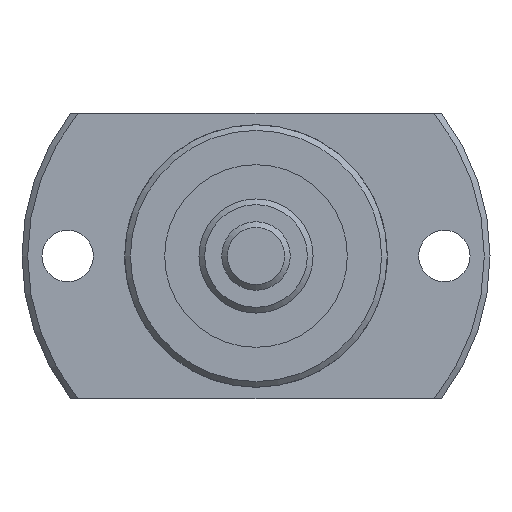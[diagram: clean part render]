
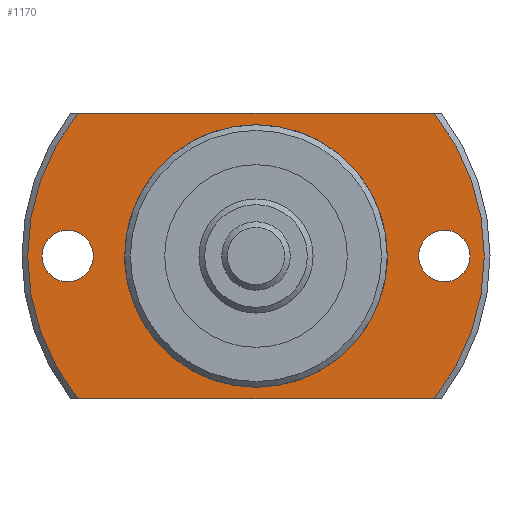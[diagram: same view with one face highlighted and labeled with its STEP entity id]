
A CAD part, left-side view. The second image highlights one B-rep face of the part: STEP entity #1170.
In plain terms, the highlighted planar face has unit normal (-1, 0, 0).
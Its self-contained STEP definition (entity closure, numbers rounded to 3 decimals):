
#121=CIRCLE('',#1303,11.3);
#124=CIRCLE('',#1307,20.);
#130=CIRCLE('',#1318,2.25);
#131=CIRCLE('',#1319,2.25);
#132=CIRCLE('',#1320,20.);
#274=ORIENTED_EDGE('',*,*,#541,.T.);
#275=ORIENTED_EDGE('',*,*,#542,.T.);
#276=ORIENTED_EDGE('',*,*,#530,.F.);
#277=ORIENTED_EDGE('',*,*,#543,.T.);
#278=ORIENTED_EDGE('',*,*,#544,.F.);
#279=ORIENTED_EDGE('',*,*,#545,.T.);
#280=ORIENTED_EDGE('',*,*,#524,.T.);
#524=EDGE_CURVE('',#670,#670,#121,.T.);
#530=EDGE_CURVE('',#675,#676,#124,.T.);
#541=EDGE_CURVE('',#685,#685,#130,.T.);
#542=EDGE_CURVE('',#686,#686,#131,.T.);
#543=EDGE_CURVE('',#675,#687,#760,.T.);
#544=EDGE_CURVE('',#688,#687,#132,.T.);
#545=EDGE_CURVE('',#688,#676,#761,.T.);
#670=VERTEX_POINT('',#1916);
#675=VERTEX_POINT('',#1930);
#676=VERTEX_POINT('',#1932);
#685=VERTEX_POINT('',#1966);
#686=VERTEX_POINT('',#1968);
#687=VERTEX_POINT('',#1970);
#688=VERTEX_POINT('',#1972);
#760=LINE('',#1969,#820);
#761=LINE('',#1973,#821);
#820=VECTOR('',#1583,1000.);
#821=VECTOR('',#1586,1000.);
#914=EDGE_LOOP('',(#274));
#915=EDGE_LOOP('',(#275));
#916=EDGE_LOOP('',(#276,#277,#278,#279));
#917=EDGE_LOOP('',(#280));
#1034=FACE_BOUND('',#914,.T.);
#1035=FACE_BOUND('',#915,.T.);
#1036=FACE_BOUND('',#916,.T.);
#1037=FACE_BOUND('',#917,.T.);
#1111=PLANE('',#1317);
#1170=ADVANCED_FACE('',(#1034,#1035,#1036,#1037),#1111,.F.);
#1303=AXIS2_PLACEMENT_3D('',#1915,#1545,#1546);
#1307=AXIS2_PLACEMENT_3D('',#1931,#1555,#1556);
#1317=AXIS2_PLACEMENT_3D('',#1964,#1577,#1578);
#1318=AXIS2_PLACEMENT_3D('',#1965,#1579,#1580);
#1319=AXIS2_PLACEMENT_3D('',#1967,#1581,#1582);
#1320=AXIS2_PLACEMENT_3D('',#1971,#1584,#1585);
#1545=DIRECTION('',(1.,0.,0.));
#1546=DIRECTION('',(0.,0.,-1.));
#1555=DIRECTION('',(1.,0.,0.));
#1556=DIRECTION('',(0.,0.,-1.));
#1577=DIRECTION('',(1.,0.,0.));
#1578=DIRECTION('',(0.,0.,-1.));
#1579=DIRECTION('',(1.,0.,0.));
#1580=DIRECTION('',(0.,0.,-1.));
#1581=DIRECTION('',(1.,0.,0.));
#1582=DIRECTION('',(0.,0.,-1.));
#1583=DIRECTION('',(0.,-1.,0.));
#1584=DIRECTION('',(1.,0.,0.));
#1585=DIRECTION('',(0.,0.,-1.));
#1586=DIRECTION('',(0.,1.,0.));
#1915=CARTESIAN_POINT('',(19.,0.,0.));
#1916=CARTESIAN_POINT('',(19.,0.,-11.3));
#1930=CARTESIAN_POINT('',(19.,15.612,-12.5));
#1931=CARTESIAN_POINT('',(19.,0.,0.));
#1932=CARTESIAN_POINT('',(19.,15.612,12.5));
#1964=CARTESIAN_POINT('',(19.,11.3,0.));
#1965=CARTESIAN_POINT('',(19.,-16.5,0.));
#1966=CARTESIAN_POINT('',(19.,-16.5,-2.25));
#1967=CARTESIAN_POINT('',(19.,16.5,0.));
#1968=CARTESIAN_POINT('',(19.,16.5,-2.25));
#1969=CARTESIAN_POINT('',(19.,11.3,-12.5));
#1970=CARTESIAN_POINT('',(19.,-15.612,-12.5));
#1971=CARTESIAN_POINT('',(19.,0.,0.));
#1972=CARTESIAN_POINT('',(19.,-15.612,12.5));
#1973=CARTESIAN_POINT('',(19.,11.3,12.5));
